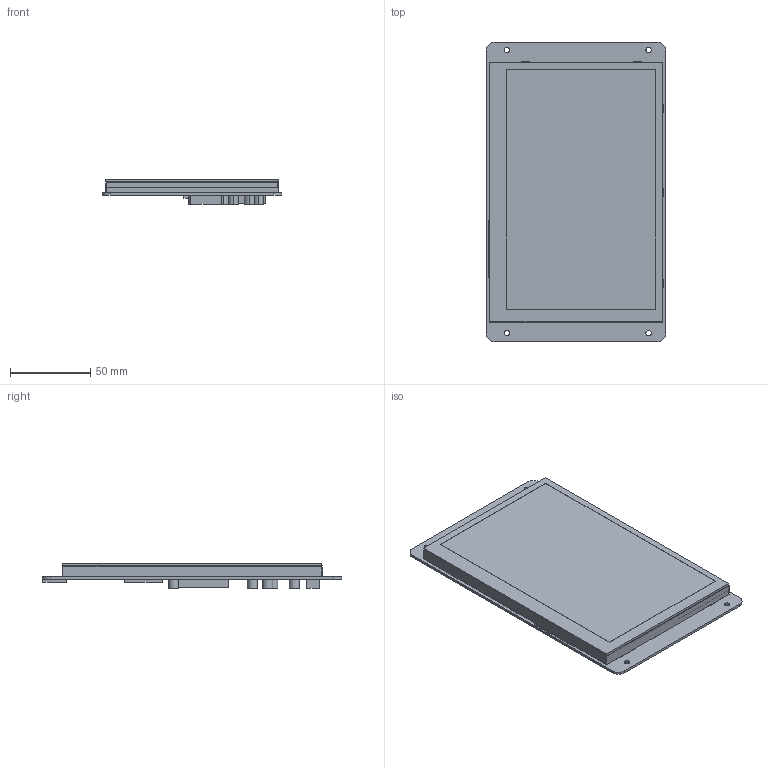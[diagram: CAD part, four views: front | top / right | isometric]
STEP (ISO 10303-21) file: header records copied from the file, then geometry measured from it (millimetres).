
FILE_DESCRIPTION((''),'2;1');
FILE_NAME('3D-DMG12800T070-01WTR','2022-07-15T',('Administrator'),(''),'PRO/ENGINEER BY PARAMETRIC TECHNOLOGY CORPORATION, 2011310','PRO/ENGINEER BY PARAMETRIC TECHNOLOGY CORPORATION, 2011310','');
FILE_SCHEMA(('CONFIG_CONTROL_DESIGN','SHAPE_APPEARANCE_LAYERS_GROUPS'));
Length unit declared in the file: millimetre
Products named in the file (1): 3D-DMG12800T070-01WTR
Bounding box: 112.14 x 186.94 x 15.5 mm (x, y, z)
Volume: 125577.2 mm3; surface area: 118899.6 mm2
Topology: 1 solids, 2 shells, 162 faces, 476 edges, 304 vertices
Faces by surface type: plane 134, cylinder 28
Entity records: 6352 total; most frequent: ORIENTED_EDGE 952, CARTESIAN_POINT 942, DIRECTION 864, EDGE_CURVE 476, VECTOR 412, LINE 412, VERTEX_POINT 304, AXIS2_PLACEMENT_3D 226
